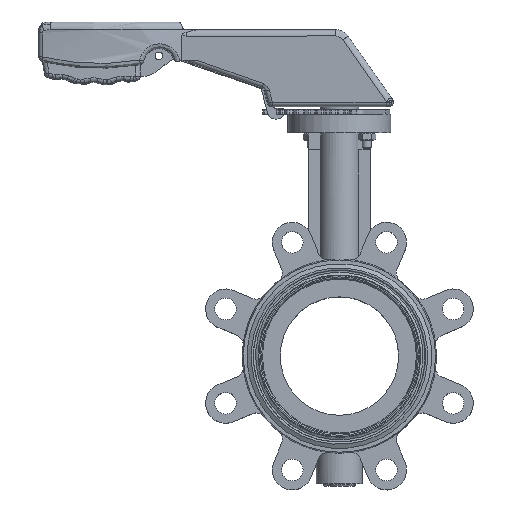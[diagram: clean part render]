
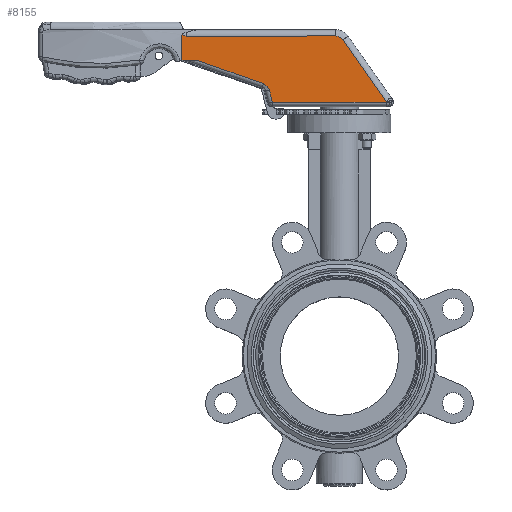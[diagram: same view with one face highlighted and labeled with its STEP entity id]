
A CAD part, top view. The second image highlights one B-rep face of the part: STEP entity #8155.
In plain terms, the highlighted planar face has unit normal (-0.048, 0, 0.999).
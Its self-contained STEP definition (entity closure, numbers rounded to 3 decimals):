
#6391=CARTESIAN_POINT('',(-92.079,192.,15.484));
#6392=VERTEX_POINT('',#6391);
#6400=CARTESIAN_POINT('',(-102.247,192.,15.));
#6401=VERTEX_POINT('',#6400);
#6402=CARTESIAN_POINT('',(-102.247,192.,15.));
#6403=DIRECTION('',(0.999,0.0,0.048));
#6404=VECTOR('',#6403,10.179);
#6405=LINE('',#6402,#6404);
#6406=EDGE_CURVE('',#6401,#6392,#6405,.T.);
#6806=CARTESIAN_POINT('',(-102.247,208.442,15.));
#6807=VERTEX_POINT('',#6806);
#6808=CARTESIAN_POINT('',(-102.247,208.442,15.));
#6809=DIRECTION('',(0.0,-1.0,0.0));
#6810=VECTOR('',#6809,16.442);
#6811=LINE('',#6808,#6810);
#6812=EDGE_CURVE('',#6807,#6401,#6811,.T.);
#7768=CARTESIAN_POINT('',(-43.485,165.,17.798));
#7769=VERTEX_POINT('',#7768);
#7777=CARTESIAN_POINT('',(-45.594,172.843,17.698));
#7778=VERTEX_POINT('',#7777);
#7779=CARTESIAN_POINT('',(-43.485,165.,17.798));
#7780=DIRECTION('',(-0.26,0.966,-0.012));
#7781=VECTOR('',#7780,8.122);
#7782=LINE('',#7779,#7781);
#7783=EDGE_CURVE('',#7769,#7778,#7782,.T.);
#7901=CARTESIAN_POINT('',(-49.4,176.946,17.517));
#7902=VERTEX_POINT('',#7901);
#7910=CARTESIAN_POINT('',(-49.4,176.946,17.517));
#7911=DIRECTION('',(-0.942,0.332,-0.045));
#7912=VECTOR('',#7911,45.302);
#7913=LINE('',#7910,#7912);
#7914=EDGE_CURVE('',#7902,#6392,#7913,.T.);
#7945=CARTESIAN_POINT('',(-51.409,171.29,17.421));
#7946=DIRECTION('',(-0.048,0.,0.999));
#7947=DIRECTION('',(0.999,0.,0.048));
#7948=AXIS2_PLACEMENT_3D('',#7945,#7946,#7947);
#7949=ELLIPSE('',#7948,6.027,6.);
#7950=EDGE_CURVE('',#7778,#7902,#7949,.T.);
#8095=CARTESIAN_POINT('',(-102.247,217.,15.));
#8096=DIRECTION('',(-0.048,0.,0.999));
#8097=DIRECTION('',(0.0,1.0,0.0));
#8098=AXIS2_PLACEMENT_3D('',#8095,#8096,#8097);
#8099=PLANE('',#8098);
#8100=CARTESIAN_POINT('',(30.393,165.099,21.316));
#8101=VERTEX_POINT('',#8100);
#8102=CARTESIAN_POINT('',(30.393,165.,21.316));
#8103=VERTEX_POINT('',#8102);
#8104=CARTESIAN_POINT('',(30.393,165.099,21.316));
#8105=DIRECTION('',(0.0,-1.0,0.0));
#8106=VECTOR('',#8105,0.099);
#8107=LINE('',#8104,#8106);
#8108=EDGE_CURVE('',#8101,#8103,#8107,.T.);
#8109=ORIENTED_EDGE('',*,*,#8108,.F.);
#8110=CARTESIAN_POINT('',(2.185,205.384,19.973));
#8111=VERTEX_POINT('',#8110);
#8112=CARTESIAN_POINT('',(2.185,205.384,19.973));
#8113=DIRECTION('',(0.573,-0.819,0.027));
#8114=VECTOR('',#8113,49.197);
#8115=LINE('',#8112,#8114);
#8116=EDGE_CURVE('',#8111,#8101,#8115,.T.);
#8117=ORIENTED_EDGE('',*,*,#8116,.F.);
#8118=CARTESIAN_POINT('',(-2.648,207.9,19.743));
#8119=VERTEX_POINT('',#8118);
#8120=CARTESIAN_POINT('',(-2.648,202.,19.743));
#8121=DIRECTION('',(0.048,0.,-0.999));
#8122=DIRECTION('',(0.999,0.,0.048));
#8123=AXIS2_PLACEMENT_3D('',#8120,#8121,#8122);
#8124=ELLIPSE('',#8123,5.907,5.9);
#8125=EDGE_CURVE('',#8119,#8111,#8124,.T.);
#8126=ORIENTED_EDGE('',*,*,#8125,.F.);
#8127=CARTESIAN_POINT('',(-99.526,207.9,15.13));
#8128=VERTEX_POINT('',#8127);
#8129=CARTESIAN_POINT('',(-99.526,207.9,15.13));
#8130=DIRECTION('',(0.999,0.0,0.048));
#8131=VECTOR('',#8130,96.988);
#8132=LINE('',#8129,#8131);
#8133=EDGE_CURVE('',#8128,#8119,#8132,.T.);
#8134=ORIENTED_EDGE('',*,*,#8133,.F.);
#8135=CARTESIAN_POINT('',(-102.247,208.442,15.));
#8136=CARTESIAN_POINT('',(-101.391,208.087,15.041));
#8137=CARTESIAN_POINT('',(-100.451,207.9,15.086));
#8138=CARTESIAN_POINT('',(-99.526,207.9,15.13));
#8139=B_SPLINE_CURVE_WITH_KNOTS('',3,(#8135,#8136,#8137,#8138),.UNSPECIFIED.,.F.,.U.,(4,4),(0.714,0.991),.UNSPECIFIED.);
#8140=EDGE_CURVE('',#6807,#8128,#8139,.T.);
#8141=ORIENTED_EDGE('',*,*,#8140,.F.);
#8142=ORIENTED_EDGE('',*,*,#6812,.T.);
#8143=ORIENTED_EDGE('',*,*,#6406,.T.);
#8144=ORIENTED_EDGE('',*,*,#7914,.F.);
#8145=ORIENTED_EDGE('',*,*,#7950,.F.);
#8146=ORIENTED_EDGE('',*,*,#7783,.F.);
#8147=CARTESIAN_POINT('',(30.393,165.,21.316));
#8148=DIRECTION('',(-0.999,0.0,-0.048));
#8149=VECTOR('',#8148,73.962);
#8150=LINE('',#8147,#8149);
#8151=EDGE_CURVE('',#8103,#7769,#8150,.T.);
#8152=ORIENTED_EDGE('',*,*,#8151,.F.);
#8153=EDGE_LOOP('',(#8109,#8117,#8126,#8134,#8141,#8142,#8143,#8144,#8145,#8146,#8152));
#8154=FACE_OUTER_BOUND('',#8153,.T.);
#8155=ADVANCED_FACE('',(#8154),#8099,.T.);
